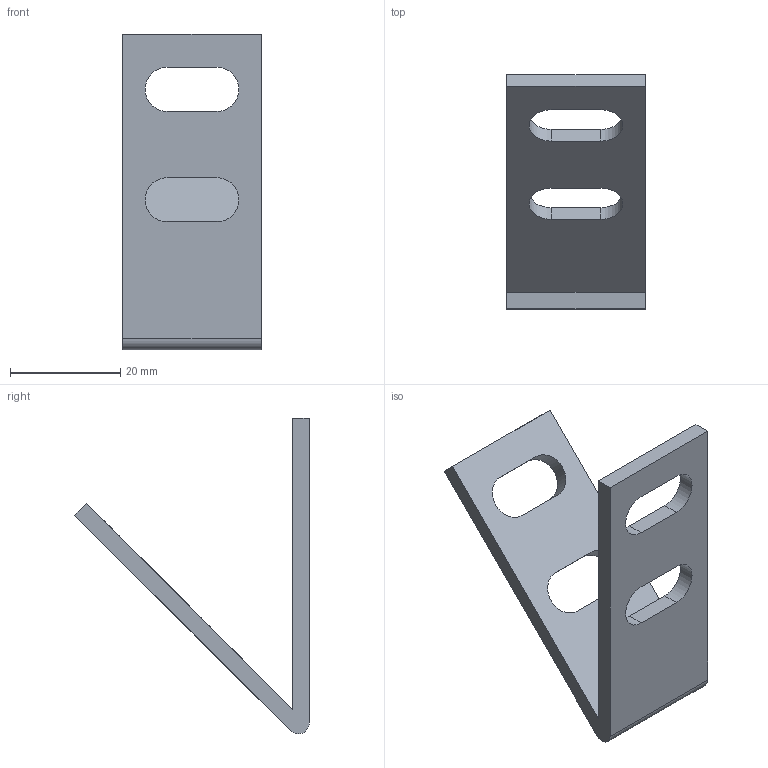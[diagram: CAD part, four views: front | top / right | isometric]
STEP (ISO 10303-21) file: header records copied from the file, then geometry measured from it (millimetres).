
FILE_DESCRIPTION (( 'STEP AP203' ), '1' );
FILE_NAME ('WB4525-6.STEP', '2024-02-17T08:02:27', ( '' ), ( '' ), 'SwSTEP 2.0', 'SolidWorks 2022', '' );
FILE_SCHEMA (( 'CONFIG_CONTROL_DESIGN' ));
Length unit declared in the file: millimetre
Products named in the file (1): WB4525-6
Bounding box: 25 x 42.43 x 57.17 mm (x, y, z)
Volume: 6866 mm3; surface area: 5870.4 mm2
Topology: 1 solids, 1 shells, 25 faces, 69 edges, 46 vertices
Faces by surface type: plane 16, cylinder 9
Entity records: 894 total; most frequent: CARTESIAN_POINT 141, DIRECTION 139, ORIENTED_EDGE 138, EDGE_CURVE 69, LINE 51, VECTOR 51, VERTEX_POINT 46, AXIS2_PLACEMENT_3D 44
